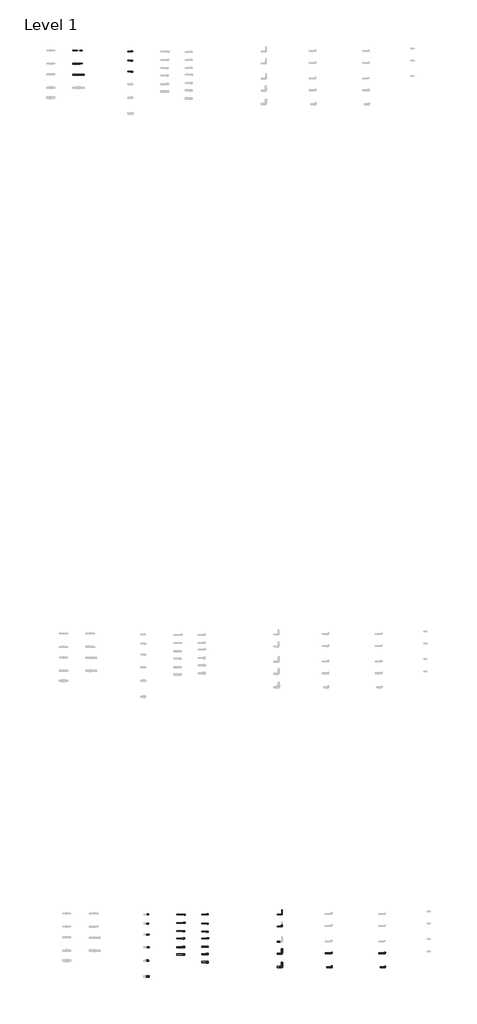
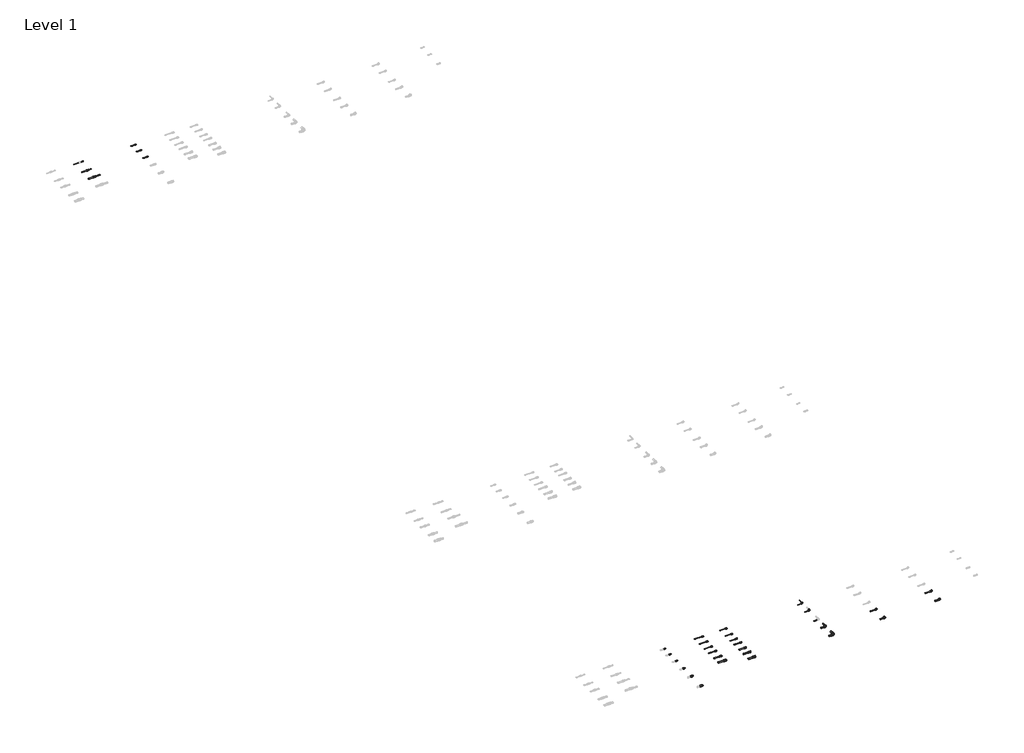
# One storey, part 31 of 78: 34 pipe segments, 32 pipe fittings.
"""IFC4 building model written with IfcOpenShell, lengths in millimetres."""

from ifc_helpers import new_model, si_unit, point, frame, frame_2d, origin, place, context, project, spatial, circle_curve, trimmed, segment, composite_curve, outline, extrude, transform, mapped, element, save
from components import pipe_fitting_bf755f27, pipe_fitting_e93012df, pipe_fitting_836a2278, pipe_fitting_b55198ad, pipe_fitting_0562571e, pipe_fitting_d14a7251, pipe_fitting_38e91122, pipe_fitting_ee510fd7, pipe_fitting_a999c26e, pipe_fitting_b01d00d0, pipe_fitting_e8fea69e, pipe_fitting_a340ff43, pipe_fitting_d52baa13, pipe_fitting_c8bca06d, pipe_fitting_5bbd4ca1, pipe_fitting_80b7091b, pipe_fitting_ce7225c3, pipe_fitting_e4b23f8c, pipe_fitting_edf19c19, pipe_fitting_f2230aa0, pipe_fitting_b873231b, pipe_fitting_68aa3d98, pipe_fitting_ea484583, pipe_fitting_c3764643, pipe_fitting_f8d70d0e, pipe_fitting_18fcccac, pipe_fitting_1e296f3b, pipe_fitting_52b87474, pipe_fitting_f7ee4d9f

model = new_model("IFC4")

# Units and contexts
model_context = context("Model", 3, world=origin())
ifc_project = project(units=[si_unit("LENGTHUNIT", "METRE", prefix="MILLI")], contexts=[model_context])

# Site, building, storey
site = spatial("IfcSite", under=ifc_project)
building = spatial("IfcBuilding", under=site)
storey = spatial("IfcBuildingStorey", under=building, Name="Level 1", Elevation=0.0)

# Pipe fittings
placement = place(None, origin())
pipe_fitting_shape = pipe_fitting_bf755f27(model_context)
element("IfcPipeFitting", 1, ObjectType="FASTLOC_Adapter with union nut LX : FSL A union nut RO", at=placement, inside=storey, context=model_context, shape_type="MappedRepresentation", body=[
    mapped(pipe_fitting_shape, transform((33811.9138788, -28331.1148632, 0.0), x_axis=(1.0, 0.0, 0.0), y_axis=(0.0, 1.0, 0.0), z_axis=(0.0, 0.0, 1.0))),
])
pipe_fitting_2_shape = pipe_fitting_e93012df(model_context)
element("IfcPipeFitting", 2, ObjectType="FASTLOC_Adapter_LX, with external thread : FSL A C external CZ", at=placement, inside=storey, context=model_context, shape_type="MappedRepresentation", body=[
    mapped(pipe_fitting_2_shape, transform((31543.4970785, -1235.7057457, 0.0), x_axis=(1.0, 0.0, 0.0), y_axis=(0.0, 1.0, 0.0), z_axis=(0.0, 0.0, 1.0))),
])
element("IfcPipeFitting", 3, ObjectType="FASTLOC_Adapter_LX, with external thread : FSL A C external RO", at=placement, inside=storey, context=model_context, shape_type="MappedRepresentation", body=[
    mapped(pipe_fitting_2_shape, transform((32026.3785179, -27135.7057457, 0.0), x_axis=(1.0, 0.0, 0.0), y_axis=(0.0, 1.0, 0.0), z_axis=(0.0, 0.0, 1.0))),
])
pipe_fitting_3_shape = pipe_fitting_836a2278(model_context)
element("IfcPipeFitting", 4, ObjectType="FASTLOC_Adapter_LX, with internal thread : FSL A internal RO", at=placement, inside=storey, context=model_context, shape_type="MappedRepresentation", body=[
    mapped(pipe_fitting_3_shape, transform((33131.9138788, -27146.1148632, 0.0), x_axis=(1.0, 0.0, 0.0), y_axis=(0.0, 1.0, 0.0), z_axis=(0.0, 0.0, 1.0))),
])
pipe_fitting_4_shape = pipe_fitting_b55198ad(model_context)
element("IfcPipeFitting", 5, ObjectType="FASTLOC_Corner LX : FSL C LX RO", at=placement, inside=storey, context=model_context, shape_type="MappedRepresentation", body=[
    mapped(pipe_fitting_4_shape, transform((36045.4707441, -27138.8136389, 0.0), x_axis=(1.0, 0.0, 0.0), y_axis=(0.0, 1.0, 0.0), z_axis=(0.0, 0.0, 1.0))),
])
pipe_fitting_5_shape = pipe_fitting_0562571e(model_context)
element("IfcPipeFitting", 6, ObjectType="FASTLOC_Coupling reduced LX : FSL C LX CZ", at=placement, inside=storey, context=model_context, shape_type="MappedRepresentation", body=[
    mapped(pipe_fitting_5_shape, transform((29943.8114162, -1605.8821283, 0.0), x_axis=(1.0, 0.0, 0.0), y_axis=(0.0, 1.0, 0.0), z_axis=(0.0, 0.0, 1.0))),
])
pipe_fitting_6_shape = pipe_fitting_d14a7251(model_context)
element("IfcPipeFitting", 7, ObjectType="FASTLOC_Coupling reduced LX : FSL C LX CZ", at=placement, inside=storey, context=model_context, shape_type="MappedRepresentation", body=[
    mapped(pipe_fitting_6_shape, transform((29943.8114162, -1938.3821283, 0.0), x_axis=(1.0, 0.0, 0.0), y_axis=(0.0, 1.0, 0.0), z_axis=(0.0, 0.0, 1.0))),
])
pipe_fitting_7_shape = pipe_fitting_38e91122(model_context)
element("IfcPipeFitting", 8, ObjectType="FASTLOC_Adapter_LX, with external thread : FSL A C external CZ", at=placement, inside=storey, context=model_context, shape_type="MappedRepresentation", body=[
    mapped(pipe_fitting_7_shape, transform((31544.0138737, -1514.2068389, 0.0), x_axis=(1.0, 0.0, 0.0), y_axis=(0.0, 1.0, 0.0), z_axis=(0.0, 0.0, 1.0))),
])
pipe_fitting_8_shape = pipe_fitting_ee510fd7(model_context)
element("IfcPipeFitting", 9, ObjectType="FASTLOC_Adapter_LX, with external thread : FSL A C external CZ", at=placement, inside=storey, context=model_context, shape_type="MappedRepresentation", body=[
    mapped(pipe_fitting_8_shape, transform((31544.0138737, -1844.2068389, 0.0), x_axis=(1.0, 0.0, 0.0), y_axis=(0.0, 1.0, 0.0), z_axis=(0.0, 0.0, 1.0))),
])
element("IfcPipeFitting", 10, ObjectType="FASTLOC_Adapter_LX, with external thread : FSL A C external RO", at=placement, inside=storey, context=model_context, shape_type="MappedRepresentation", body=[
    mapped(pipe_fitting_7_shape, transform((32026.8953131, -27414.2068389, 0.0), x_axis=(1.0, 0.0, 0.0), y_axis=(0.0, 1.0, 0.0), z_axis=(0.0, 0.0, 1.0))),
])
element("IfcPipeFitting", 11, ObjectType="FASTLOC_Adapter_LX, with external thread : FSL A C external RO", at=placement, inside=storey, context=model_context, shape_type="MappedRepresentation", body=[
    mapped(pipe_fitting_8_shape, transform((32026.8953131, -27744.2068389, 0.0), x_axis=(1.0, 0.0, 0.0), y_axis=(0.0, 1.0, 0.0), z_axis=(0.0, 0.0, 1.0))),
])
pipe_fitting_9_shape = pipe_fitting_a999c26e(model_context)
element("IfcPipeFitting", 12, ObjectType="FASTLOC_Adapter_LX, with external thread : FSL A C external RO", at=placement, inside=storey, context=model_context, shape_type="MappedRepresentation", body=[
    mapped(pipe_fitting_9_shape, transform((32026.8953131, -28124.2068389, 0.0), x_axis=(1.0, 0.0, 0.0), y_axis=(0.0, 1.0, 0.0), z_axis=(0.0, 0.0, 1.0))),
])
pipe_fitting_10_shape = pipe_fitting_b01d00d0(model_context)
element("IfcPipeFitting", 13, ObjectType="FASTLOC_Adapter_LX, with external thread : FSL A C external RO", at=placement, inside=storey, context=model_context, shape_type="MappedRepresentation", body=[
    mapped(pipe_fitting_10_shape, transform((32026.8953131, -28524.2068389, 0.0), x_axis=(1.0, 0.0, 0.0), y_axis=(0.0, 1.0, 0.0), z_axis=(0.0, 0.0, 1.0))),
])
pipe_fitting_11_shape = pipe_fitting_e8fea69e(model_context)
element("IfcPipeFitting", 14, ObjectType="FASTLOC_Adapter_LX, with external thread : FSL A C external RO", at=placement, inside=storey, context=model_context, shape_type="MappedRepresentation", body=[
    mapped(pipe_fitting_11_shape, transform((32026.8953131, -29004.2068389, 0.0), x_axis=(1.0, 0.0, 0.0), y_axis=(0.0, 1.0, 0.0), z_axis=(0.0, 0.0, 1.0))),
])
pipe_fitting_12_shape = pipe_fitting_a340ff43(model_context)
element("IfcPipeFitting", 15, ObjectType="FASTLOC_Adapter with union nut LX : FSL A union nut RO", at=placement, inside=storey, context=model_context, shape_type="MappedRepresentation", body=[
    mapped(pipe_fitting_12_shape, transform((33811.9138788, -27416.1148632, 0.0), x_axis=(1.0, 0.0, 0.0), y_axis=(0.0, 1.0, 0.0), z_axis=(0.0, 0.0, 1.0))),
])
pipe_fitting_13_shape = pipe_fitting_d52baa13(model_context)
element("IfcPipeFitting", 16, ObjectType="FASTLOC_Adapter with union nut LX : FSL A union nut RO", at=placement, inside=storey, context=model_context, shape_type="MappedRepresentation", body=[
    mapped(pipe_fitting_13_shape, transform((33811.9138788, -27656.1148632, 0.0), x_axis=(1.0, 0.0, 0.0), y_axis=(0.0, 1.0, 0.0), z_axis=(0.0, 0.0, 1.0))),
])
pipe_fitting_14_shape = pipe_fitting_c8bca06d(model_context)
element("IfcPipeFitting", 17, ObjectType="FASTLOC_Adapter with union nut LX : FSL A union nut RO", at=placement, inside=storey, context=model_context, shape_type="MappedRepresentation", body=[
    mapped(pipe_fitting_14_shape, transform((33826.0560144, -27856.9727276, 0.0), x_axis=(1.0, 0.0, 0.0), y_axis=(0.0, 1.0, 0.0), z_axis=(0.0, 0.0, 1.0))),
])
pipe_fitting_15_shape = pipe_fitting_5bbd4ca1(model_context)
element("IfcPipeFitting", 18, ObjectType="FASTLOC_Adapter with union nut LX : FSL A union nut RO", at=placement, inside=storey, context=model_context, shape_type="MappedRepresentation", body=[
    mapped(pipe_fitting_15_shape, transform((33811.9138788, -28111.1148632, 0.0), x_axis=(1.0, 0.0, 0.0), y_axis=(0.0, 1.0, 0.0), z_axis=(0.0, 0.0, 1.0))),
])
pipe_fitting_16_shape = pipe_fitting_80b7091b(model_context)
element("IfcPipeFitting", 19, ObjectType="FASTLOC_Adapter with union nut LX : FSL A union nut RO", at=placement, inside=storey, context=model_context, shape_type="MappedRepresentation", body=[
    mapped(pipe_fitting_16_shape, transform((33811.9138788, -28571.1148632, 0.0), x_axis=(1.0, 0.0, 0.0), y_axis=(0.0, 1.0, 0.0), z_axis=(0.0, 0.0, 1.0))),
])
pipe_fitting_17_shape = pipe_fitting_ce7225c3(model_context)
element("IfcPipeFitting", 20, ObjectType="FASTLOC_Adapter with union nut LX : FSL A union nut RO", at=placement, inside=storey, context=model_context, shape_type="MappedRepresentation", body=[
    mapped(pipe_fitting_17_shape, transform((33811.9138788, -27136.1148632, 0.0), x_axis=(1.0, 0.0, 0.0), y_axis=(0.0, 1.0, 0.0), z_axis=(0.0, 0.0, 1.0))),
])
pipe_fitting_18_shape = pipe_fitting_e4b23f8c(model_context)
element("IfcPipeFitting", 21, ObjectType="FASTLOC_Corner LX : FSL C LX RO", at=placement, inside=storey, context=model_context, shape_type="MappedRepresentation", body=[
    mapped(pipe_fitting_18_shape, transform((36045.4707441, -27498.8136389, 0.0), x_axis=(1.0, 0.0, 0.0), y_axis=(0.0, 1.0, 0.0), z_axis=(0.0, 0.0, 1.0))),
])
pipe_fitting_19_shape = pipe_fitting_edf19c19(model_context)
element("IfcPipeFitting", 22, ObjectType="FASTLOC_Corner LX : FSL C LX RO", at=placement, inside=storey, context=model_context, shape_type="MappedRepresentation", body=[
    mapped(pipe_fitting_19_shape, transform((36045.4707441, -28318.8136389, 0.0), x_axis=(1.0, 0.0, 0.0), y_axis=(0.0, 1.0, 0.0), z_axis=(0.0, 0.0, 1.0))),
])
pipe_fitting_20_shape = pipe_fitting_f2230aa0(model_context)
element("IfcPipeFitting", 23, ObjectType="FASTLOC_Corner LX : FSL C LX RO", at=placement, inside=storey, context=model_context, shape_type="MappedRepresentation", body=[
    mapped(pipe_fitting_20_shape, transform((36045.4707441, -28718.8136389, 0.0), x_axis=(1.0, 0.0, 0.0), y_axis=(0.0, 1.0, 0.0), z_axis=(0.0, 0.0, 1.0))),
])
pipe_fitting_21_shape = pipe_fitting_b873231b(model_context)
element("IfcPipeFitting", 24, ObjectType="FASTLOC_Elbow with male thread LX : FSL A internal RO", at=placement, inside=storey, context=model_context, shape_type="MappedRepresentation", body=[
    mapped(pipe_fitting_21_shape, transform((37536.9744513, -28304.4914884, 0.0), x_axis=(1.0, 0.0, 0.0), y_axis=(0.0, 1.0, 0.0), z_axis=(0.0, 0.0, 1.0))),
])
pipe_fitting_22_shape = pipe_fitting_68aa3d98(model_context)
element("IfcPipeFitting", 25, ObjectType="FASTLOC_Elbow with male thread LX : FSL A internal RO", at=placement, inside=storey, context=model_context, shape_type="MappedRepresentation", body=[
    mapped(pipe_fitting_22_shape, transform((37536.9744513, -28724.4914884, 0.0), x_axis=(1.0, 0.0, 0.0), y_axis=(0.0, 1.0, 0.0), z_axis=(0.0, 0.0, 1.0))),
])
pipe_fitting_23_shape = pipe_fitting_ea484583(model_context)
element("IfcPipeFitting", 26, ObjectType="FASTLOC_Elbow with female thread LX : FSL A internal RO", at=placement, inside=storey, context=model_context, shape_type="MappedRepresentation", body=[
    mapped(pipe_fitting_23_shape, transform((39136.9744513, -28304.4914884, 0.0), x_axis=(1.0, 0.0, 0.0), y_axis=(0.0, 1.0, 0.0), z_axis=(0.0, 0.0, 1.0))),
])
pipe_fitting_24_shape = pipe_fitting_c3764643(model_context)
element("IfcPipeFitting", 27, ObjectType="FASTLOC_Elbow with female thread LX : FSL A internal RO", at=placement, inside=storey, context=model_context, shape_type="MappedRepresentation", body=[
    mapped(pipe_fitting_24_shape, transform((39136.9744513, -28724.4914884, 0.0), x_axis=(1.0, 0.0, 0.0), y_axis=(0.0, 1.0, 0.0), z_axis=(0.0, 0.0, 1.0))),
])
pipe_fitting_25_shape = pipe_fitting_f8d70d0e(model_context)
element("IfcPipeFitting", 28, ObjectType="FASTLOC_Adapter_LX, with internal thread : FSL A internal RO", at=placement, inside=storey, context=model_context, shape_type="MappedRepresentation", body=[
    mapped(pipe_fitting_25_shape, transform((33102.7717432, -27640.2569989, 0.0), x_axis=(1.0, 0.0, 0.0), y_axis=(0.0, 1.0, 0.0), z_axis=(0.0, 0.0, 1.0))),
])
pipe_fitting_26_shape = pipe_fitting_18fcccac(model_context)
element("IfcPipeFitting", 29, ObjectType="FASTLOC_Adapter_LX, with internal thread : FSL A internal RO", at=placement, inside=storey, context=model_context, shape_type="MappedRepresentation", body=[
    mapped(pipe_fitting_26_shape, transform((33102.7717432, -27860.2569989, 0.0), x_axis=(1.0, 0.0, 0.0), y_axis=(0.0, 1.0, 0.0), z_axis=(0.0, 0.0, 1.0))),
])
pipe_fitting_27_shape = pipe_fitting_1e296f3b(model_context)
element("IfcPipeFitting", 30, ObjectType="FASTLOC_Adapter_LX, with internal thread : FSL A internal RO", at=placement, inside=storey, context=model_context, shape_type="MappedRepresentation", body=[
    mapped(pipe_fitting_27_shape, transform((33102.7717432, -28120.2569989, 0.0), x_axis=(1.0, 0.0, 0.0), y_axis=(0.0, 1.0, 0.0), z_axis=(0.0, 0.0, 1.0))),
])
pipe_fitting_28_shape = pipe_fitting_52b87474(model_context)
element("IfcPipeFitting", 31, ObjectType="FASTLOC_Adapter_LX, with internal thread : FSL A internal RO", at=placement, inside=storey, context=model_context, shape_type="MappedRepresentation", body=[
    mapped(pipe_fitting_28_shape, transform((33102.7717432, -28340.2569989, 0.0), x_axis=(1.0, 0.0, 0.0), y_axis=(0.0, 1.0, 0.0), z_axis=(0.0, 0.0, 1.0))),
])
pipe_fitting_29_shape = pipe_fitting_f7ee4d9f(model_context)
element("IfcPipeFitting", 32, ObjectType="FASTLOC_Adapter_LX, with internal thread : FSL A internal RO", at=placement, inside=storey, context=model_context, shape_type="MappedRepresentation", body=[
    mapped(pipe_fitting_29_shape, transform((33119.5138788, -27392.5715861, 0.0), x_axis=(1.0, 0.0, 0.0), y_axis=(0.0, 1.0, 0.0), z_axis=(0.0, 0.0, 1.0))),
])

# Pipe segments
element("IfcPipeSegment", 33, ObjectType="FASTLOC LX ML RO bar", at=placement, inside=storey, context=model_context, shape_type="SweptSolid", body=[
    extrude(outline(composite_curve([segment(trimmed(circle_curve(frame_2d((-27146.1148632, 0.0)), 8.0), [point((-27138.1148632, 0.0))], [point((-27146.1148632, -8.0))], False, "CARTESIAN"), True, "CONTINUOUS"), segment(trimmed(circle_curve(frame_2d((-27146.1148632, 0.0)), 8.0), [point((-27146.1148632, -8.0))], [point((-27154.1148632, 0.0))], False, "CARTESIAN"), True, "CONTINUOUS"), segment(trimmed(circle_curve(frame_2d((-27146.1148632, 0.0)), 8.0), [point((-27154.1148632, 0.0))], [point((-27146.1148632, 8.0))], False, "CARTESIAN"), True, "CONTINUOUS"), segment(trimmed(circle_curve(frame_2d((-27146.1148632, 0.0)), 8.0), [point((-27146.1148632, 8.0))], [point((-27138.1148632, 0.0))], False, "CARTESIAN"), True, "CONTINUOUS")], self_intersect=False)), frame((32890.3717432, 0.0, 0.0), z_axis=(1.0, 0.0, 0.0), x_axis=(0.0, 1.0, 0.0)), (0.0, 0.0, 1.0), 229.1421356),
])
element("IfcPipeSegment", 34, ObjectType="FASTLOC LX ML RO bar", at=placement, inside=storey, context=model_context, shape_type="SweptSolid", body=[
    extrude(outline(composite_curve([segment(trimmed(circle_curve(frame_2d((-27138.8136389, 0.0)), 8.0), [point((-27130.8136389, 0.0))], [point((-27138.8136389, -8.0))], False, "CARTESIAN"), True, "CONTINUOUS"), segment(trimmed(circle_curve(frame_2d((-27138.8136389, 0.0)), 8.0), [point((-27138.8136389, -8.0))], [point((-27146.8136389, 0.0))], False, "CARTESIAN"), True, "CONTINUOUS"), segment(trimmed(circle_curve(frame_2d((-27138.8136389, 0.0)), 8.0), [point((-27146.8136389, 0.0))], [point((-27138.8136389, 8.0))], False, "CARTESIAN"), True, "CONTINUOUS"), segment(trimmed(circle_curve(frame_2d((-27138.8136389, 0.0)), 8.0), [point((-27138.8136389, 8.0))], [point((-27130.8136389, 0.0))], False, "CARTESIAN"), True, "CONTINUOUS")], self_intersect=False)), frame((35903.3707441, 0.0, 0.0), z_axis=(1.0, 0.0, 0.0), x_axis=(0.0, 1.0, 0.0)), (0.0, 0.0, 1.0), 120.0),
])
element("IfcPipeSegment", 35, ObjectType="FASTLOC LX ML RO bar", at=placement, inside=storey, context=model_context, shape_type="SweptSolid", body=[
    extrude(outline(composite_curve([segment(trimmed(circle_curve(frame_2d((0.0, 36045.4707441)), 8.0), [point((0.0, 36053.4707441))], [point((8.0, 36045.4707441))], False, "CARTESIAN"), True, "CONTINUOUS"), segment(trimmed(circle_curve(frame_2d((0.0, 36045.4707441)), 8.0), [point((8.0, 36045.4707441))], [point((0.0, 36037.4707441))], False, "CARTESIAN"), True, "CONTINUOUS"), segment(trimmed(circle_curve(frame_2d((0.0, 36045.4707441)), 8.0), [point((0.0, 36037.4707441))], [point((-8.0, 36045.4707441))], False, "CARTESIAN"), True, "CONTINUOUS"), segment(trimmed(circle_curve(frame_2d((0.0, 36045.4707441)), 8.0), [point((-8.0, 36045.4707441))], [point((0.0, 36053.4707441))], False, "CARTESIAN"), True, "CONTINUOUS")], self_intersect=False)), frame((0.0, -27116.7136389, 0.0), z_axis=(0.0, 1.0, 0.0), x_axis=(0.0, 0.0, 1.0)), (0.0, 0.0, 1.0), 125.0),
])
element("IfcPipeSegment", 36, ObjectType="FASTLOC LX ML RO bar", at=placement, inside=storey, context=model_context, shape_type="SweptSolid", body=[
    extrude(outline(composite_curve([segment(trimmed(circle_curve(frame_2d((-27498.8136389, 0.0)), 8.0), [point((-27490.8136389, 0.0))], [point((-27498.8136389, -8.0))], False, "CARTESIAN"), True, "CONTINUOUS"), segment(trimmed(circle_curve(frame_2d((-27498.8136389, 0.0)), 8.0), [point((-27498.8136389, -8.0))], [point((-27506.8136389, 0.0))], False, "CARTESIAN"), True, "CONTINUOUS"), segment(trimmed(circle_curve(frame_2d((-27498.8136389, 0.0)), 8.0), [point((-27506.8136389, 0.0))], [point((-27498.8136389, 8.0))], False, "CARTESIAN"), True, "CONTINUOUS"), segment(trimmed(circle_curve(frame_2d((-27498.8136389, 0.0)), 8.0), [point((-27498.8136389, 8.0))], [point((-27490.8136389, 0.0))], False, "CARTESIAN"), True, "CONTINUOUS")], self_intersect=False)), frame((35903.3707441, 0.0, 0.0), z_axis=(1.0, 0.0, 0.0), x_axis=(0.0, 1.0, 0.0)), (0.0, 0.0, 1.0), 117.5),
])
element("IfcPipeSegment", 37, ObjectType="FASTLOC LX ML RO bar", at=placement, inside=storey, context=model_context, shape_type="SweptSolid", body=[
    extrude(outline(composite_curve([segment(trimmed(circle_curve(frame_2d((-27958.8136389, 0.0)), 12.5), [point((-27946.3136389, 0.0))], [point((-27958.8136389, -12.5))], False, "CARTESIAN"), True, "CONTINUOUS"), segment(trimmed(circle_curve(frame_2d((-27958.8136389, 0.0)), 12.5), [point((-27958.8136389, -12.5))], [point((-27971.3136389, 0.0))], False, "CARTESIAN"), True, "CONTINUOUS"), segment(trimmed(circle_curve(frame_2d((-27958.8136389, 0.0)), 12.5), [point((-27971.3136389, 0.0))], [point((-27958.8136389, 12.5))], False, "CARTESIAN"), True, "CONTINUOUS"), segment(trimmed(circle_curve(frame_2d((-27958.8136389, 0.0)), 12.5), [point((-27958.8136389, 12.5))], [point((-27946.3136389, 0.0))], False, "CARTESIAN"), True, "CONTINUOUS")], self_intersect=False)), frame((35903.3707441, 0.0, 0.0), z_axis=(1.0, 0.0, 0.0), x_axis=(0.0, 1.0, 0.0)), (0.0, 0.0, 1.0), 113.1),
])
element("IfcPipeSegment", 38, ObjectType="FASTLOC LX ML RO bar", at=placement, inside=storey, context=model_context, shape_type="SweptSolid", body=[
    extrude(outline(composite_curve([segment(trimmed(circle_curve(frame_2d((-28318.8136389, 0.0)), 16.0), [point((-28302.8136389, 0.0))], [point((-28318.8136389, -16.0))], False, "CARTESIAN"), True, "CONTINUOUS"), segment(trimmed(circle_curve(frame_2d((-28318.8136389, 0.0)), 16.0), [point((-28318.8136389, -16.0))], [point((-28334.8136389, 0.0))], False, "CARTESIAN"), True, "CONTINUOUS"), segment(trimmed(circle_curve(frame_2d((-28318.8136389, 0.0)), 16.0), [point((-28334.8136389, 0.0))], [point((-28318.8136389, 16.0))], False, "CARTESIAN"), True, "CONTINUOUS"), segment(trimmed(circle_curve(frame_2d((-28318.8136389, 0.0)), 16.0), [point((-28318.8136389, 16.0))], [point((-28302.8136389, 0.0))], False, "CARTESIAN"), True, "CONTINUOUS")], self_intersect=False)), frame((35903.3707441, 0.0, 0.0), z_axis=(1.0, 0.0, 0.0), x_axis=(0.0, 1.0, 0.0)), (0.0, 0.0, 1.0), 107.1),
])
element("IfcPipeSegment", 39, ObjectType="FASTLOC LX ML RO bar", at=placement, inside=storey, context=model_context, shape_type="SweptSolid", body=[
    extrude(outline(composite_curve([segment(trimmed(circle_curve(frame_2d((0.0, 36045.4707441)), 16.0), [point((0.0, 36061.4707441))], [point((16.0, 36045.4707441))], False, "CARTESIAN"), True, "CONTINUOUS"), segment(trimmed(circle_curve(frame_2d((0.0, 36045.4707441)), 16.0), [point((16.0, 36045.4707441))], [point((0.0, 36029.4707441))], False, "CARTESIAN"), True, "CONTINUOUS"), segment(trimmed(circle_curve(frame_2d((0.0, 36045.4707441)), 16.0), [point((0.0, 36029.4707441))], [point((-16.0, 36045.4707441))], False, "CARTESIAN"), True, "CONTINUOUS"), segment(trimmed(circle_curve(frame_2d((0.0, 36045.4707441)), 16.0), [point((-16.0, 36045.4707441))], [point((0.0, 36061.4707441))], False, "CARTESIAN"), True, "CONTINUOUS")], self_intersect=False)), frame((0.0, -28283.8136389, 0.0), z_axis=(0.0, 1.0, 0.0), x_axis=(0.0, 0.0, 1.0)), (0.0, 0.0, 1.0), 112.1),
])
element("IfcPipeSegment", 40, ObjectType="FASTLOC LX ML RO bar", at=placement, inside=storey, context=model_context, shape_type="SweptSolid", body=[
    extrude(outline(composite_curve([segment(trimmed(circle_curve(frame_2d((-28718.8136389, 0.0)), 20.0), [point((-28698.8136389, 0.0))], [point((-28718.8136389, -20.0))], False, "CARTESIAN"), True, "CONTINUOUS"), segment(trimmed(circle_curve(frame_2d((-28718.8136389, 0.0)), 20.0), [point((-28718.8136389, -20.0))], [point((-28738.8136389, 0.0))], False, "CARTESIAN"), True, "CONTINUOUS"), segment(trimmed(circle_curve(frame_2d((-28718.8136389, 0.0)), 20.0), [point((-28738.8136389, 0.0))], [point((-28718.8136389, 20.0))], False, "CARTESIAN"), True, "CONTINUOUS"), segment(trimmed(circle_curve(frame_2d((-28718.8136389, 0.0)), 20.0), [point((-28718.8136389, 20.0))], [point((-28698.8136389, 0.0))], False, "CARTESIAN"), True, "CONTINUOUS")], self_intersect=False)), frame((35903.3707441, 0.0, 0.0), z_axis=(1.0, 0.0, 0.0), x_axis=(0.0, 1.0, 0.0)), (0.0, 0.0, 1.0), 97.4),
])
element("IfcPipeSegment", 41, ObjectType="FASTLOC LX ML RO bar", at=placement, inside=storey, context=model_context, shape_type="SweptSolid", body=[
    extrude(outline(composite_curve([segment(trimmed(circle_curve(frame_2d((0.0, 36045.4707441)), 20.0), [point((0.0, 36065.4707441))], [point((20.0, 36045.4707441))], False, "CARTESIAN"), True, "CONTINUOUS"), segment(trimmed(circle_curve(frame_2d((0.0, 36045.4707441)), 20.0), [point((20.0, 36045.4707441))], [point((0.0, 36025.4707441))], False, "CARTESIAN"), True, "CONTINUOUS"), segment(trimmed(circle_curve(frame_2d((0.0, 36045.4707441)), 20.0), [point((0.0, 36025.4707441))], [point((-20.0, 36045.4707441))], False, "CARTESIAN"), True, "CONTINUOUS"), segment(trimmed(circle_curve(frame_2d((0.0, 36045.4707441)), 20.0), [point((-20.0, 36045.4707441))], [point((0.0, 36065.4707441))], False, "CARTESIAN"), True, "CONTINUOUS")], self_intersect=False)), frame((0.0, -28674.1136389, 0.0), z_axis=(0.0, 1.0, 0.0), x_axis=(0.0, 0.0, 1.0)), (0.0, 0.0, 1.0), 102.4),
])
element("IfcPipeSegment", 42, ObjectType="FASTLOC LX ML RO bar", at=placement, inside=storey, context=model_context, shape_type="SweptSolid", body=[
    extrude(outline(composite_curve([segment(trimmed(circle_curve(frame_2d((-27392.5715861, 0.0)), 8.0), [point((-27384.5715861, 0.0))], [point((-27392.5715861, -8.0))], False, "CARTESIAN"), True, "CONTINUOUS"), segment(trimmed(circle_curve(frame_2d((-27392.5715861, 0.0)), 8.0), [point((-27392.5715861, -8.0))], [point((-27400.5715861, 0.0))], False, "CARTESIAN"), True, "CONTINUOUS"), segment(trimmed(circle_curve(frame_2d((-27392.5715861, 0.0)), 8.0), [point((-27400.5715861, 0.0))], [point((-27392.5715861, 8.0))], False, "CARTESIAN"), True, "CONTINUOUS"), segment(trimmed(circle_curve(frame_2d((-27392.5715861, 0.0)), 8.0), [point((-27392.5715861, 8.0))], [point((-27384.5715861, 0.0))], False, "CARTESIAN"), True, "CONTINUOUS")], self_intersect=False)), frame((32890.3717432, 0.0, 0.0), z_axis=(1.0, 0.0, 0.0), x_axis=(0.0, 1.0, 0.0)), (0.0, 0.0, 1.0), 217.4421356),
])
element("IfcPipeSegment", 43, ObjectType="FASTLOC LX ML RO bar", at=placement, inside=storey, context=model_context, shape_type="SweptSolid", body=[
    extrude(outline(composite_curve([segment(trimmed(circle_curve(frame_2d((-27640.2569989, 0.0)), 8.0), [point((-27632.2569989, 0.0))], [point((-27640.2569989, -8.0))], False, "CARTESIAN"), True, "CONTINUOUS"), segment(trimmed(circle_curve(frame_2d((-27640.2569989, 0.0)), 8.0), [point((-27640.2569989, -8.0))], [point((-27648.2569989, 0.0))], False, "CARTESIAN"), True, "CONTINUOUS"), segment(trimmed(circle_curve(frame_2d((-27640.2569989, 0.0)), 8.0), [point((-27648.2569989, 0.0))], [point((-27640.2569989, 8.0))], False, "CARTESIAN"), True, "CONTINUOUS"), segment(trimmed(circle_curve(frame_2d((-27640.2569989, 0.0)), 8.0), [point((-27640.2569989, 8.0))], [point((-27632.2569989, 0.0))], False, "CARTESIAN"), True, "CONTINUOUS")], self_intersect=False)), frame((32890.3717432, 0.0, 0.0), z_axis=(1.0, 0.0, 0.0), x_axis=(0.0, 1.0, 0.0)), (0.0, 0.0, 1.0), 199.1),
])
element("IfcPipeSegment", 44, ObjectType="FASTLOC LX ML RO bar", at=placement, inside=storey, context=model_context, shape_type="SweptSolid", body=[
    extrude(outline(composite_curve([segment(trimmed(circle_curve(frame_2d((-27860.2569989, 0.0)), 12.5), [point((-27847.7569989, 0.0))], [point((-27860.2569989, -12.5))], False, "CARTESIAN"), True, "CONTINUOUS"), segment(trimmed(circle_curve(frame_2d((-27860.2569989, 0.0)), 12.5), [point((-27860.2569989, -12.5))], [point((-27872.7569989, 0.0))], False, "CARTESIAN"), True, "CONTINUOUS"), segment(trimmed(circle_curve(frame_2d((-27860.2569989, 0.0)), 12.5), [point((-27872.7569989, 0.0))], [point((-27860.2569989, 12.5))], False, "CARTESIAN"), True, "CONTINUOUS"), segment(trimmed(circle_curve(frame_2d((-27860.2569989, 0.0)), 12.5), [point((-27860.2569989, 12.5))], [point((-27847.7569989, 0.0))], False, "CARTESIAN"), True, "CONTINUOUS")], self_intersect=False)), frame((32890.3717432, 0.0, 0.0), z_axis=(1.0, 0.0, 0.0), x_axis=(0.0, 1.0, 0.0)), (0.0, 0.0, 1.0), 199.5),
])
element("IfcPipeSegment", 45, ObjectType="FASTLOC LX ML RO bar", at=placement, inside=storey, context=model_context, shape_type="SweptSolid", body=[
    extrude(outline(composite_curve([segment(trimmed(circle_curve(frame_2d((-28120.2569989, 0.0)), 16.0), [point((-28104.2569989, 0.0))], [point((-28120.2569989, -16.0))], False, "CARTESIAN"), True, "CONTINUOUS"), segment(trimmed(circle_curve(frame_2d((-28120.2569989, 0.0)), 16.0), [point((-28120.2569989, -16.0))], [point((-28136.2569989, 0.0))], False, "CARTESIAN"), True, "CONTINUOUS"), segment(trimmed(circle_curve(frame_2d((-28120.2569989, 0.0)), 16.0), [point((-28136.2569989, 0.0))], [point((-28120.2569989, 16.0))], False, "CARTESIAN"), True, "CONTINUOUS"), segment(trimmed(circle_curve(frame_2d((-28120.2569989, 0.0)), 16.0), [point((-28120.2569989, 16.0))], [point((-28104.2569989, 0.0))], False, "CARTESIAN"), True, "CONTINUOUS")], self_intersect=False)), frame((32890.3717432, 0.0, 0.0), z_axis=(1.0, 0.0, 0.0), x_axis=(0.0, 1.0, 0.0)), (0.0, 0.0, 1.0), 197.9),
])
element("IfcPipeSegment", 46, ObjectType="FASTLOC LX ML RO bar", at=placement, inside=storey, context=model_context, shape_type="SweptSolid", body=[
    extrude(outline(composite_curve([segment(trimmed(circle_curve(frame_2d((-28340.2569989, 0.0)), 20.0), [point((-28320.2569989, 0.0))], [point((-28340.2569989, -20.0))], False, "CARTESIAN"), True, "CONTINUOUS"), segment(trimmed(circle_curve(frame_2d((-28340.2569989, 0.0)), 20.0), [point((-28340.2569989, -20.0))], [point((-28360.2569989, 0.0))], False, "CARTESIAN"), True, "CONTINUOUS"), segment(trimmed(circle_curve(frame_2d((-28340.2569989, 0.0)), 20.0), [point((-28360.2569989, 0.0))], [point((-28340.2569989, 20.0))], False, "CARTESIAN"), True, "CONTINUOUS"), segment(trimmed(circle_curve(frame_2d((-28340.2569989, 0.0)), 20.0), [point((-28340.2569989, 20.0))], [point((-28320.2569989, 0.0))], False, "CARTESIAN"), True, "CONTINUOUS")], self_intersect=False)), frame((32890.3717432, 0.0, 0.0), z_axis=(1.0, 0.0, 0.0), x_axis=(0.0, 1.0, 0.0)), (0.0, 0.0, 1.0), 192.4),
])
element("IfcPipeSegment", 47, ObjectType="FASTLOC LX ML RO bar", at=placement, inside=storey, context=model_context, shape_type="SweptSolid", body=[
    extrude(outline(composite_curve([segment(trimmed(circle_curve(frame_2d((-27416.1148632, 0.0)), 8.0), [point((-27408.1148632, 0.0))], [point((-27416.1148632, -8.0))], False, "CARTESIAN"), True, "CONTINUOUS"), segment(trimmed(circle_curve(frame_2d((-27416.1148632, 0.0)), 8.0), [point((-27416.1148632, -8.0))], [point((-27424.1148632, 0.0))], False, "CARTESIAN"), True, "CONTINUOUS"), segment(trimmed(circle_curve(frame_2d((-27416.1148632, 0.0)), 8.0), [point((-27424.1148632, 0.0))], [point((-27416.1148632, 8.0))], False, "CARTESIAN"), True, "CONTINUOUS"), segment(trimmed(circle_curve(frame_2d((-27416.1148632, 0.0)), 8.0), [point((-27416.1148632, 8.0))], [point((-27408.1148632, 0.0))], False, "CARTESIAN"), True, "CONTINUOUS")], self_intersect=False)), frame((33632.9138788, 0.0, 0.0), z_axis=(1.0, 0.0, 0.0), x_axis=(0.0, 1.0, 0.0)), (0.0, 0.0, 1.0), 170.0),
])
element("IfcPipeSegment", 48, ObjectType="FASTLOC LX ML RO bar", at=placement, inside=storey, context=model_context, shape_type="SweptSolid", body=[
    extrude(outline(composite_curve([segment(trimmed(circle_curve(frame_2d((-27656.1148632, 0.0)), 8.0), [point((-27648.1148632, 0.0))], [point((-27656.1148632, -8.0))], False, "CARTESIAN"), True, "CONTINUOUS"), segment(trimmed(circle_curve(frame_2d((-27656.1148632, 0.0)), 8.0), [point((-27656.1148632, -8.0))], [point((-27664.1148632, 0.0))], False, "CARTESIAN"), True, "CONTINUOUS"), segment(trimmed(circle_curve(frame_2d((-27656.1148632, 0.0)), 8.0), [point((-27664.1148632, 0.0))], [point((-27656.1148632, 8.0))], False, "CARTESIAN"), True, "CONTINUOUS"), segment(trimmed(circle_curve(frame_2d((-27656.1148632, 0.0)), 8.0), [point((-27656.1148632, 8.0))], [point((-27648.1148632, 0.0))], False, "CARTESIAN"), True, "CONTINUOUS")], self_intersect=False)), frame((33632.9138788, 0.0, 0.0), z_axis=(1.0, 0.0, 0.0), x_axis=(0.0, 1.0, 0.0)), (0.0, 0.0, 1.0), 170.0),
])
element("IfcPipeSegment", 49, ObjectType="FASTLOC LX ML RO bar", at=placement, inside=storey, context=model_context, shape_type="SweptSolid", body=[
    extrude(outline(composite_curve([segment(trimmed(circle_curve(frame_2d((-28111.1148632, 0.0)), 12.5), [point((-28098.6148632, 0.0))], [point((-28111.1148632, -12.5))], False, "CARTESIAN"), True, "CONTINUOUS"), segment(trimmed(circle_curve(frame_2d((-28111.1148632, 0.0)), 12.5), [point((-28111.1148632, -12.5))], [point((-28123.6148632, 0.0))], False, "CARTESIAN"), True, "CONTINUOUS"), segment(trimmed(circle_curve(frame_2d((-28111.1148632, 0.0)), 12.5), [point((-28123.6148632, 0.0))], [point((-28111.1148632, 12.5))], False, "CARTESIAN"), True, "CONTINUOUS"), segment(trimmed(circle_curve(frame_2d((-28111.1148632, 0.0)), 12.5), [point((-28111.1148632, 12.5))], [point((-28098.6148632, 0.0))], False, "CARTESIAN"), True, "CONTINUOUS")], self_intersect=False)), frame((33632.9138788, 0.0, 0.0), z_axis=(1.0, 0.0, 0.0), x_axis=(0.0, 1.0, 0.0)), (0.0, 0.0, 1.0), 168.7),
])
element("IfcPipeSegment", 50, ObjectType="FASTLOC LX ML RO bar", at=placement, inside=storey, context=model_context, shape_type="SweptSolid", body=[
    extrude(outline(composite_curve([segment(trimmed(circle_curve(frame_2d((-28331.1148632, 0.0)), 16.0), [point((-28315.1148632, 0.0))], [point((-28331.1148632, -16.0))], False, "CARTESIAN"), True, "CONTINUOUS"), segment(trimmed(circle_curve(frame_2d((-28331.1148632, 0.0)), 16.0), [point((-28331.1148632, -16.0))], [point((-28347.1148632, 0.0))], False, "CARTESIAN"), True, "CONTINUOUS"), segment(trimmed(circle_curve(frame_2d((-28331.1148632, 0.0)), 16.0), [point((-28347.1148632, 0.0))], [point((-28331.1148632, 16.0))], False, "CARTESIAN"), True, "CONTINUOUS"), segment(trimmed(circle_curve(frame_2d((-28331.1148632, 0.0)), 16.0), [point((-28331.1148632, 16.0))], [point((-28315.1148632, 0.0))], False, "CARTESIAN"), True, "CONTINUOUS")], self_intersect=False)), frame((33632.9138788, 0.0, 0.0), z_axis=(1.0, 0.0, 0.0), x_axis=(0.0, 1.0, 0.0)), (0.0, 0.0, 1.0), 167.5),
])
element("IfcPipeSegment", 51, ObjectType="FASTLOC LX ML RO bar", at=placement, inside=storey, context=model_context, shape_type="SweptSolid", body=[
    extrude(outline(composite_curve([segment(trimmed(circle_curve(frame_2d((-28571.1148632, 0.0)), 20.0), [point((-28551.1148632, 0.0))], [point((-28571.1148632, -20.0))], False, "CARTESIAN"), True, "CONTINUOUS"), segment(trimmed(circle_curve(frame_2d((-28571.1148632, 0.0)), 20.0), [point((-28571.1148632, -20.0))], [point((-28591.1148632, 0.0))], False, "CARTESIAN"), True, "CONTINUOUS"), segment(trimmed(circle_curve(frame_2d((-28571.1148632, 0.0)), 20.0), [point((-28591.1148632, 0.0))], [point((-28571.1148632, 20.0))], False, "CARTESIAN"), True, "CONTINUOUS"), segment(trimmed(circle_curve(frame_2d((-28571.1148632, 0.0)), 20.0), [point((-28571.1148632, 20.0))], [point((-28551.1148632, 0.0))], False, "CARTESIAN"), True, "CONTINUOUS")], self_intersect=False)), frame((33632.9138788, 0.0, 0.0), z_axis=(1.0, 0.0, 0.0), x_axis=(0.0, 1.0, 0.0)), (0.0, 0.0, 1.0), 167.5),
])
element("IfcPipeSegment", 52, ObjectType="FASTLOC LX ML RO bar", at=placement, inside=storey, context=model_context, shape_type="SweptSolid", body=[
    extrude(outline(composite_curve([segment(trimmed(circle_curve(frame_2d((-28304.4914884, 0.0)), 12.5), [point((-28291.9914884, 0.0))], [point((-28304.4914884, -12.5))], False, "CARTESIAN"), True, "CONTINUOUS"), segment(trimmed(circle_curve(frame_2d((-28304.4914884, 0.0)), 12.5), [point((-28304.4914884, -12.5))], [point((-28316.9914884, 0.0))], False, "CARTESIAN"), True, "CONTINUOUS"), segment(trimmed(circle_curve(frame_2d((-28304.4914884, 0.0)), 12.5), [point((-28316.9914884, 0.0))], [point((-28304.4914884, 12.5))], False, "CARTESIAN"), True, "CONTINUOUS"), segment(trimmed(circle_curve(frame_2d((-28304.4914884, 0.0)), 12.5), [point((-28304.4914884, 12.5))], [point((-28291.9914884, 0.0))], False, "CARTESIAN"), True, "CONTINUOUS")], self_intersect=False)), frame((37346.7744513, 0.0, 0.0), z_axis=(1.0, 0.0, 0.0), x_axis=(0.0, 1.0, 0.0)), (0.0, 0.0, 1.0), 166.0),
])
element("IfcPipeSegment", 53, ObjectType="FASTLOC LX ML RO bar", at=placement, inside=storey, context=model_context, shape_type="SweptSolid", body=[
    extrude(outline(composite_curve([segment(trimmed(circle_curve(frame_2d((-28724.4914884, 0.0)), 16.0), [point((-28708.4914884, 0.0))], [point((-28724.4914884, -16.0))], False, "CARTESIAN"), True, "CONTINUOUS"), segment(trimmed(circle_curve(frame_2d((-28724.4914884, 0.0)), 16.0), [point((-28724.4914884, -16.0))], [point((-28740.4914884, 0.0))], False, "CARTESIAN"), True, "CONTINUOUS"), segment(trimmed(circle_curve(frame_2d((-28724.4914884, 0.0)), 16.0), [point((-28740.4914884, 0.0))], [point((-28724.4914884, 16.0))], False, "CARTESIAN"), True, "CONTINUOUS"), segment(trimmed(circle_curve(frame_2d((-28724.4914884, 0.0)), 16.0), [point((-28724.4914884, 16.0))], [point((-28708.4914884, 0.0))], False, "CARTESIAN"), True, "CONTINUOUS")], self_intersect=False)), frame((37394.8744513, 0.0, 0.0), z_axis=(1.0, 0.0, 0.0), x_axis=(0.0, 1.0, 0.0)), (0.0, 0.0, 1.0), 112.4),
])
element("IfcPipeSegment", 54, ObjectType="FASTLOC LX ML RO bar", at=placement, inside=storey, context=model_context, shape_type="SweptSolid", body=[
    extrude(outline(composite_curve([segment(trimmed(circle_curve(frame_2d((-27856.9727276, 0.0)), 8.0), [point((-27848.9727276, 0.0))], [point((-27856.9727276, -8.0))], False, "CARTESIAN"), True, "CONTINUOUS"), segment(trimmed(circle_curve(frame_2d((-27856.9727276, 0.0)), 8.0), [point((-27856.9727276, -8.0))], [point((-27864.9727276, 0.0))], False, "CARTESIAN"), True, "CONTINUOUS"), segment(trimmed(circle_curve(frame_2d((-27856.9727276, 0.0)), 8.0), [point((-27864.9727276, 0.0))], [point((-27856.9727276, 8.0))], False, "CARTESIAN"), True, "CONTINUOUS"), segment(trimmed(circle_curve(frame_2d((-27856.9727276, 0.0)), 8.0), [point((-27856.9727276, 8.0))], [point((-27848.9727276, 0.0))], False, "CARTESIAN"), True, "CONTINUOUS")], self_intersect=False)), frame((33632.9138788, 0.0, 0.0), z_axis=(1.0, 0.0, 0.0), x_axis=(0.0, 1.0, 0.0)), (0.0, 0.0, 1.0), 184.1421356),
])
element("IfcPipeSegment", 55, ObjectType="FASTLOC LX ML RO bar", at=placement, inside=storey, context=model_context, shape_type="SweptSolid", body=[
    extrude(outline(composite_curve([segment(trimmed(circle_curve(frame_2d((-28304.4914884, 0.0)), 12.5), [point((-28291.9914884, 0.0))], [point((-28304.4914884, -12.5))], False, "CARTESIAN"), True, "CONTINUOUS"), segment(trimmed(circle_curve(frame_2d((-28304.4914884, 0.0)), 12.5), [point((-28304.4914884, -12.5))], [point((-28316.9914884, 0.0))], False, "CARTESIAN"), True, "CONTINUOUS"), segment(trimmed(circle_curve(frame_2d((-28304.4914884, 0.0)), 12.5), [point((-28316.9914884, 0.0))], [point((-28304.4914884, 12.5))], False, "CARTESIAN"), True, "CONTINUOUS"), segment(trimmed(circle_curve(frame_2d((-28304.4914884, 0.0)), 12.5), [point((-28304.4914884, 12.5))], [point((-28291.9914884, 0.0))], False, "CARTESIAN"), True, "CONTINUOUS")], self_intersect=False)), frame((38946.7744513, 0.0, 0.0), z_axis=(1.0, 0.0, 0.0), x_axis=(0.0, 1.0, 0.0)), (0.0, 0.0, 1.0), 163.2),
])
element("IfcPipeSegment", 56, ObjectType="FASTLOC LX ML RO bar", at=placement, inside=storey, context=model_context, shape_type="SweptSolid", body=[
    extrude(outline(composite_curve([segment(trimmed(circle_curve(frame_2d((-28724.4914884, 0.0)), 16.0), [point((-28708.4914884, 0.0))], [point((-28724.4914884, -16.0))], False, "CARTESIAN"), True, "CONTINUOUS"), segment(trimmed(circle_curve(frame_2d((-28724.4914884, 0.0)), 16.0), [point((-28724.4914884, -16.0))], [point((-28740.4914884, 0.0))], False, "CARTESIAN"), True, "CONTINUOUS"), segment(trimmed(circle_curve(frame_2d((-28724.4914884, 0.0)), 16.0), [point((-28740.4914884, 0.0))], [point((-28724.4914884, 16.0))], False, "CARTESIAN"), True, "CONTINUOUS"), segment(trimmed(circle_curve(frame_2d((-28724.4914884, 0.0)), 16.0), [point((-28724.4914884, 16.0))], [point((-28708.4914884, 0.0))], False, "CARTESIAN"), True, "CONTINUOUS")], self_intersect=False)), frame((38994.8744513, 0.0, 0.0), z_axis=(1.0, 0.0, 0.0), x_axis=(0.0, 1.0, 0.0)), (0.0, 0.0, 1.0), 110.1),
])
element("IfcPipeSegment", 57, ObjectType="FASTLOC LX ML CZ bar", at=placement, inside=storey, context=model_context, shape_type="SweptSolid", body=[
    extrude(outline(composite_curve([segment(trimmed(circle_curve(frame_2d((-1205.8821283, 0.0)), 8.0), [point((-1213.8821283, 0.0))], [point((-1205.8821283, 8.0))], False, "CARTESIAN"), True, "CONTINUOUS"), segment(trimmed(circle_curve(frame_2d((-1205.8821283, 0.0)), 8.0), [point((-1205.8821283, 8.0))], [point((-1197.8821283, 0.0))], False, "CARTESIAN"), True, "CONTINUOUS"), segment(trimmed(circle_curve(frame_2d((-1205.8821283, 0.0)), 8.0), [point((-1197.8821283, 0.0))], [point((-1205.8821283, -8.0))], False, "CARTESIAN"), True, "CONTINUOUS"), segment(trimmed(circle_curve(frame_2d((-1205.8821283, 0.0)), 8.0), [point((-1205.8821283, -8.0))], [point((-1213.8821283, 0.0))], False, "CARTESIAN"), True, "CONTINUOUS")], self_intersect=False)), frame((29950.1114162, 0.0, 0.0), z_axis=(1.0, 0.0, 0.0), x_axis=(0.0, 1.0, 0.0)), (0.0, 0.0, 1.0), 95.0),
])
element("IfcPipeSegment", 58, ObjectType="FASTLOC LX ML CZ bar", at=placement, inside=storey, context=model_context, shape_type="SweptSolid", body=[
    extrude(outline(composite_curve([segment(trimmed(circle_curve(frame_2d((-1205.8821283, 0.0)), 8.0), [point((-1197.8821283, 0.0))], [point((-1205.8821283, -8.0))], False, "CARTESIAN"), True, "CONTINUOUS"), segment(trimmed(circle_curve(frame_2d((-1205.8821283, 0.0)), 8.0), [point((-1205.8821283, -8.0))], [point((-1213.8821283, 0.0))], False, "CARTESIAN"), True, "CONTINUOUS"), segment(trimmed(circle_curve(frame_2d((-1205.8821283, 0.0)), 8.0), [point((-1213.8821283, 0.0))], [point((-1205.8821283, 8.0))], False, "CARTESIAN"), True, "CONTINUOUS"), segment(trimmed(circle_curve(frame_2d((-1205.8821283, 0.0)), 8.0), [point((-1205.8821283, 8.0))], [point((-1197.8821283, 0.0))], False, "CARTESIAN"), True, "CONTINUOUS")], self_intersect=False)), frame((29770.1114162, 0.0, 0.0), z_axis=(1.0, 0.0, 0.0), x_axis=(0.0, 1.0, 0.0)), (0.0, 0.0, 1.0), 165.0),
])
element("IfcPipeSegment", 59, ObjectType="FASTLOC LX ML CZ bar", at=placement, inside=storey, context=model_context, shape_type="SweptSolid", body=[
    extrude(outline(composite_curve([segment(trimmed(circle_curve(frame_2d((-1605.8821283, 0.0)), 12.5), [point((-1593.3821283, 0.0))], [point((-1605.8821283, -12.5))], False, "CARTESIAN"), True, "CONTINUOUS"), segment(trimmed(circle_curve(frame_2d((-1605.8821283, 0.0)), 12.5), [point((-1605.8821283, -12.5))], [point((-1618.3821283, 0.0))], False, "CARTESIAN"), True, "CONTINUOUS"), segment(trimmed(circle_curve(frame_2d((-1605.8821283, 0.0)), 12.5), [point((-1618.3821283, 0.0))], [point((-1605.8821283, 12.5))], False, "CARTESIAN"), True, "CONTINUOUS"), segment(trimmed(circle_curve(frame_2d((-1605.8821283, 0.0)), 12.5), [point((-1605.8821283, 12.5))], [point((-1593.3821283, 0.0))], False, "CARTESIAN"), True, "CONTINUOUS")], self_intersect=False)), frame((29770.1114162, 0.0, 0.0), z_axis=(1.0, 0.0, 0.0), x_axis=(0.0, 1.0, 0.0)), (0.0, 0.0, 1.0), 163.9),
])
element("IfcPipeSegment", 60, ObjectType="FASTLOC LX ML CZ bar", at=placement, inside=storey, context=model_context, shape_type="SweptSolid", body=[
    extrude(outline(composite_curve([segment(trimmed(circle_curve(frame_2d((-1605.8821283, 0.0)), 8.0), [point((-1613.8821283, 0.0))], [point((-1605.8821283, 8.0))], False, "CARTESIAN"), True, "CONTINUOUS"), segment(trimmed(circle_curve(frame_2d((-1605.8821283, 0.0)), 8.0), [point((-1605.8821283, 8.0))], [point((-1597.8821283, 0.0))], False, "CARTESIAN"), True, "CONTINUOUS"), segment(trimmed(circle_curve(frame_2d((-1605.8821283, 0.0)), 8.0), [point((-1597.8821283, 0.0))], [point((-1605.8821283, -8.0))], False, "CARTESIAN"), True, "CONTINUOUS"), segment(trimmed(circle_curve(frame_2d((-1605.8821283, 0.0)), 8.0), [point((-1605.8821283, -8.0))], [point((-1613.8821283, 0.0))], False, "CARTESIAN"), True, "CONTINUOUS")], self_intersect=False)), frame((29949.5114162, 0.0, 0.0), z_axis=(1.0, 0.0, 0.0), x_axis=(0.0, 1.0, 0.0)), (0.0, 0.0, 1.0), 95.6),
])
element("IfcPipeSegment", 61, ObjectType="FASTLOC LX ML CZ bar", at=placement, inside=storey, context=model_context, shape_type="SweptSolid", body=[
    extrude(outline(composite_curve([segment(trimmed(circle_curve(frame_2d((-1235.7057457, 0.0)), 8.0), [point((-1227.7057457, 0.0))], [point((-1235.7057457, -8.0))], False, "CARTESIAN"), True, "CONTINUOUS"), segment(trimmed(circle_curve(frame_2d((-1235.7057457, 0.0)), 8.0), [point((-1235.7057457, -8.0))], [point((-1243.7057457, 0.0))], False, "CARTESIAN"), True, "CONTINUOUS"), segment(trimmed(circle_curve(frame_2d((-1235.7057457, 0.0)), 8.0), [point((-1243.7057457, 0.0))], [point((-1235.7057457, 8.0))], False, "CARTESIAN"), True, "CONTINUOUS"), segment(trimmed(circle_curve(frame_2d((-1235.7057457, 0.0)), 8.0), [point((-1235.7057457, 8.0))], [point((-1227.7057457, 0.0))], False, "CARTESIAN"), True, "CONTINUOUS")], self_intersect=False)), frame((31419.1970785, 0.0, 0.0), z_axis=(1.0, 0.0, 0.0), x_axis=(0.0, 1.0, 0.0)), (0.0, 0.0, 1.0), 115.4),
])
element("IfcPipeSegment", 62, ObjectType="FASTLOC LX ML CZ bar", at=placement, inside=storey, context=model_context, shape_type="SweptSolid", body=[
    extrude(outline(composite_curve([segment(trimmed(circle_curve(frame_2d((-1514.2068389, 0.0)), 8.0), [point((-1506.2068389, 0.0))], [point((-1514.2068389, -8.0))], False, "CARTESIAN"), True, "CONTINUOUS"), segment(trimmed(circle_curve(frame_2d((-1514.2068389, 0.0)), 8.0), [point((-1514.2068389, -8.0))], [point((-1522.2068389, 0.0))], False, "CARTESIAN"), True, "CONTINUOUS"), segment(trimmed(circle_curve(frame_2d((-1514.2068389, 0.0)), 8.0), [point((-1522.2068389, 0.0))], [point((-1514.2068389, 8.0))], False, "CARTESIAN"), True, "CONTINUOUS"), segment(trimmed(circle_curve(frame_2d((-1514.2068389, 0.0)), 8.0), [point((-1514.2068389, 8.0))], [point((-1506.2068389, 0.0))], False, "CARTESIAN"), True, "CONTINUOUS")], self_intersect=False)), frame((31419.1970785, 0.0, 0.0), z_axis=(1.0, 0.0, 0.0), x_axis=(0.0, 1.0, 0.0)), (0.0, 0.0, 1.0), 116.1167951),
])
element("IfcPipeSegment", 63, ObjectType="FASTLOC LX ML CZ bar", at=placement, inside=storey, context=model_context, shape_type="SweptSolid", body=[
    extrude(outline(composite_curve([segment(trimmed(circle_curve(frame_2d((-1844.2068389, 0.0)), 8.0), [point((-1836.2068389, 0.0))], [point((-1844.2068389, -8.0))], False, "CARTESIAN"), True, "CONTINUOUS"), segment(trimmed(circle_curve(frame_2d((-1844.2068389, 0.0)), 8.0), [point((-1844.2068389, -8.0))], [point((-1852.2068389, 0.0))], False, "CARTESIAN"), True, "CONTINUOUS"), segment(trimmed(circle_curve(frame_2d((-1844.2068389, 0.0)), 8.0), [point((-1852.2068389, 0.0))], [point((-1844.2068389, 8.0))], False, "CARTESIAN"), True, "CONTINUOUS"), segment(trimmed(circle_curve(frame_2d((-1844.2068389, 0.0)), 8.0), [point((-1844.2068389, 8.0))], [point((-1836.2068389, 0.0))], False, "CARTESIAN"), True, "CONTINUOUS")], self_intersect=False)), frame((31419.1970785, 0.0, 0.0), z_axis=(1.0, 0.0, 0.0), x_axis=(0.0, 1.0, 0.0)), (0.0, 0.0, 1.0), 115.5167951),
])
element("IfcPipeSegment", 64, ObjectType="FASTLOC LX ML CZ bar", at=placement, inside=storey, context=model_context, shape_type="SweptSolid", body=[
    extrude(outline(composite_curve([segment(trimmed(circle_curve(frame_2d((-1938.3821283, 0.0)), 16.0), [point((-1922.3821283, 0.0))], [point((-1938.3821283, -16.0))], False, "CARTESIAN"), True, "CONTINUOUS"), segment(trimmed(circle_curve(frame_2d((-1938.3821283, 0.0)), 16.0), [point((-1938.3821283, -16.0))], [point((-1954.3821283, 0.0))], False, "CARTESIAN"), True, "CONTINUOUS"), segment(trimmed(circle_curve(frame_2d((-1938.3821283, 0.0)), 16.0), [point((-1954.3821283, 0.0))], [point((-1938.3821283, 16.0))], False, "CARTESIAN"), True, "CONTINUOUS"), segment(trimmed(circle_curve(frame_2d((-1938.3821283, 0.0)), 16.0), [point((-1938.3821283, 16.0))], [point((-1922.3821283, 0.0))], False, "CARTESIAN"), True, "CONTINUOUS")], self_intersect=False)), frame((29770.1114162, 0.0, 0.0), z_axis=(1.0, 0.0, 0.0), x_axis=(0.0, 1.0, 0.0)), (0.0, 0.0, 1.0), 161.3),
])
element("IfcPipeSegment", 65, ObjectType="FASTLOC LX ML CZ bar", at=placement, inside=storey, context=model_context, shape_type="SweptSolid", body=[
    extrude(outline(composite_curve([segment(trimmed(circle_curve(frame_2d((-1938.3821283, 0.0)), 12.5), [point((-1950.8821283, 0.0))], [point((-1938.3821283, 12.5))], False, "CARTESIAN"), True, "CONTINUOUS"), segment(trimmed(circle_curve(frame_2d((-1938.3821283, 0.0)), 12.5), [point((-1938.3821283, 12.5))], [point((-1925.8821283, 0.0))], False, "CARTESIAN"), True, "CONTINUOUS"), segment(trimmed(circle_curve(frame_2d((-1938.3821283, 0.0)), 12.5), [point((-1925.8821283, 0.0))], [point((-1938.3821283, -12.5))], False, "CARTESIAN"), True, "CONTINUOUS"), segment(trimmed(circle_curve(frame_2d((-1938.3821283, 0.0)), 12.5), [point((-1938.3821283, -12.5))], [point((-1950.8821283, 0.0))], False, "CARTESIAN"), True, "CONTINUOUS")], self_intersect=False)), frame((29949.6114162, 0.0, 0.0), z_axis=(1.0, 0.0, 0.0), x_axis=(0.0, 1.0, 0.0)), (0.0, 0.0, 1.0), 155.1),
])
element("IfcPipeSegment", 66, ObjectType="FASTLOC LX ML RO bar", at=placement, inside=storey, context=model_context, shape_type="SweptSolid", body=[
    extrude(outline(composite_curve([segment(trimmed(circle_curve(frame_2d((-27136.1148632, 0.0)), 8.0), [point((-27128.1148632, 0.0))], [point((-27136.1148632, -8.0))], False, "CARTESIAN"), True, "CONTINUOUS"), segment(trimmed(circle_curve(frame_2d((-27136.1148632, 0.0)), 8.0), [point((-27136.1148632, -8.0))], [point((-27144.1148632, 0.0))], False, "CARTESIAN"), True, "CONTINUOUS"), segment(trimmed(circle_curve(frame_2d((-27136.1148632, 0.0)), 8.0), [point((-27144.1148632, 0.0))], [point((-27136.1148632, 8.0))], False, "CARTESIAN"), True, "CONTINUOUS"), segment(trimmed(circle_curve(frame_2d((-27136.1148632, 0.0)), 8.0), [point((-27136.1148632, 8.0))], [point((-27128.1148632, 0.0))], False, "CARTESIAN"), True, "CONTINUOUS")], self_intersect=False)), frame((33632.9138788, 0.0, 0.0), z_axis=(1.0, 0.0, 0.0), x_axis=(0.0, 1.0, 0.0)), (0.0, 0.0, 1.0), 170.0),
])

save(model, "model.ifc")
